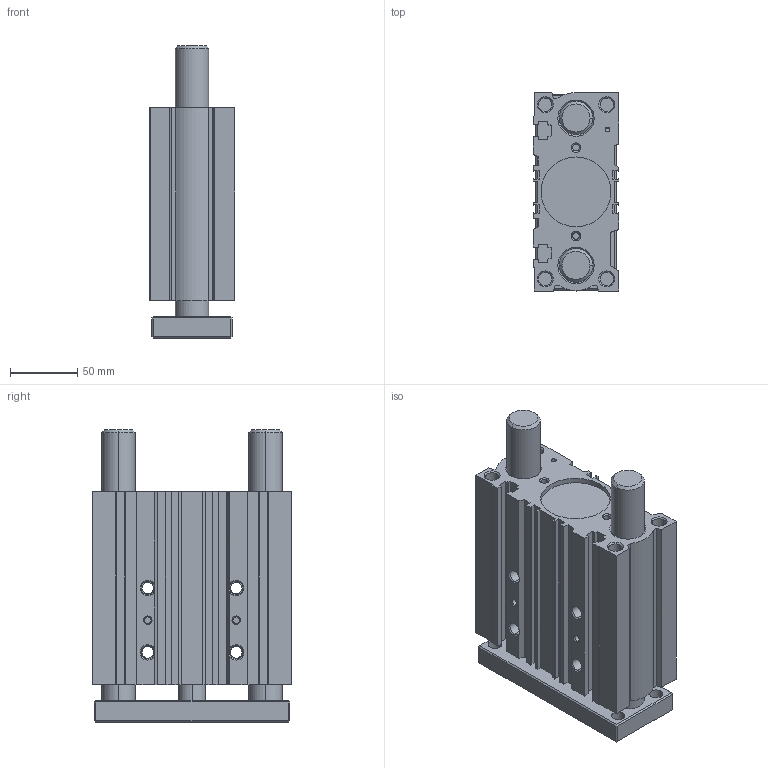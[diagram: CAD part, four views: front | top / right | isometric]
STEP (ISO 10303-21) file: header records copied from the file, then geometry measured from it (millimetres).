
FILE_DESCRIPTION (( 'STEP AP203' ), '1' );
FILE_NAME ('MGPM-50X80-CYLINDER.STEP', '2015-06-27T09:09:24', ( 'user' ), ( '' ), 'SwSTEP 2.0', 'SolidWorks 2013', '' );
FILE_SCHEMA (( 'CONFIG_CONTROL_DESIGN' ));
Length unit declared in the file: millimetre
Products named in the file (3): MGPM-50X80 BORU; MGPM-50X80 烰 KAFA M尳; MGPM-50X80-CYLINDER
Assembly tree (2 placements, depth 2):
  MGPM-50X80-CYLINDER
    MGPM-50X80 BORU
    MGPM-50X80 烰 KAFA M尳
Bounding box: 64 x 148 x 218 mm (x, y, z)
Volume: 1344531.8 mm3; surface area: 216123.1 mm2
Topology: 2 solids, 2 shells, 353 faces, 873 edges, 556 vertices
Faces by surface type: plane 199, cylinder 100, cone 54
Entity records: 10806 total; most frequent: CARTESIAN_POINT 1892, DIRECTION 1835, ORIENTED_EDGE 1746, EDGE_CURVE 873, AXIS2_PLACEMENT_3D 621, VECTOR 593, LINE 593, VERTEX_POINT 556
